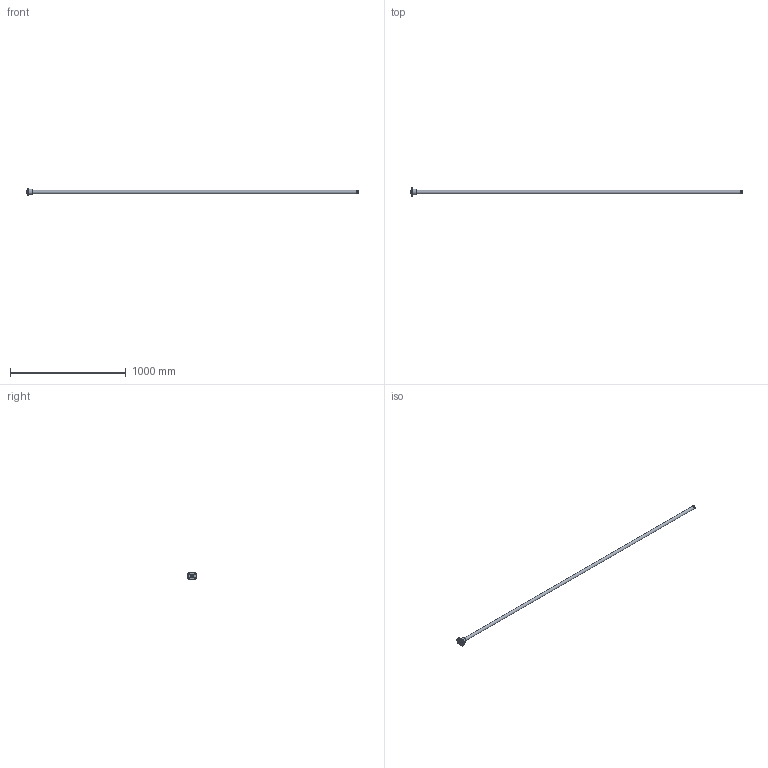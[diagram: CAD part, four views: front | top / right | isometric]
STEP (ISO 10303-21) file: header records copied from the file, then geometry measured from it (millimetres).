
FILE_DESCRIPTION( ( 'STEP AP203' ), ' ' );
FILE_NAME( 'p:/temp/worker_12/2884_3592/app_57_12018011810432816942606818fa3fd_000000_00_00_000000/format_0/BTK 2806V-2.6ZZ+2873LC7T_28060.stp', '2018-01-18T09:43:29', ( '' ), ( '' ), ' ', 'PARTsolutions', ' ' );
FILE_SCHEMA( ( 'CONFIG_CONTROL_DESIGN' ) );
Length unit declared in the file: millimetre
Products named in the file (3): BTK 2806V-2.6ZZ+2873LC7T_28060; _BTK 2806V-2.62806 Shaft; _BTK 2806V-2.6ZZ Nut
Assembly tree (2 placements, depth 2):
  BTK 2806V-2.6ZZ+2873LC7T_28060
    _BTK 2806V-2.62806 Shaft
    _BTK 2806V-2.6ZZ Nut
Bounding box: 2873 x 80 x 60 mm (x, y, z)
Volume: 1853501.5 mm3; surface area: 276283.9 mm2
Topology: 2 solids, 2 shells, 39 faces, 84 edges, 55 vertices
Faces by surface type: cylinder 17, plane 14, cone 8
Full cylindrical faces by diameter (mm): 4.917 x1, 6.6 x4, 22.4 x2, 28 x4, 33.6 x2, 45 x1, 50 x1
Entity records: 1202 total; most frequent: CARTESIAN_POINT 303, DIRECTION 174, ORIENTED_EDGE 122, AXIS2_PLACEMENT_3D 82, EDGE_LOOP 76, EDGE_CURVE 61, FACE_OUTER_BOUND 54, VERTEX_POINT 51
